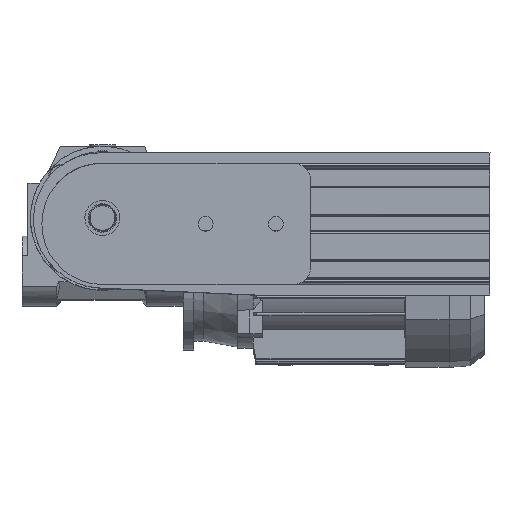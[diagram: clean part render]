
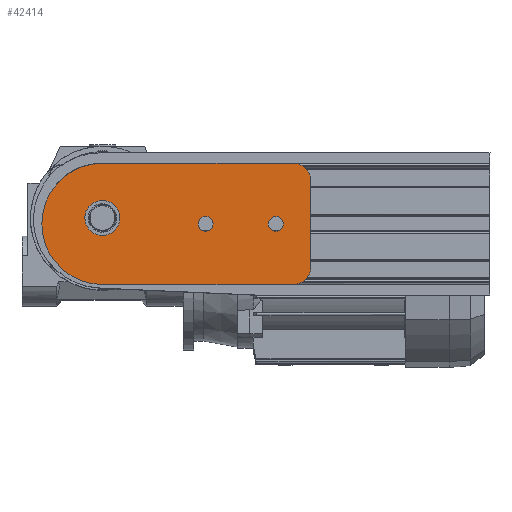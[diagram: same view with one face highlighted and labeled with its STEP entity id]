
A CAD part, top view. The second image highlights one B-rep face of the part: STEP entity #42414.
In plain terms, the highlighted planar face has unit normal (0, 0, 1).
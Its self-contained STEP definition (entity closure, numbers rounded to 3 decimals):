
#42213=CARTESIAN_POINT('',(156.889,-27.171,75.608));
#42214=VERTEX_POINT('',#42213);
#42215=CARTESIAN_POINT('',(156.889,-22.921,75.608));
#42216=DIRECTION('',(0.,0.,-1.0));
#42217=DIRECTION('',(0.,-1.0,0.));
#42218=AXIS2_PLACEMENT_3D('',#42215,#42216,#42217);
#42219=CIRCLE('',#42218,4.25);
#42220=EDGE_CURVE('',#42214,#42214,#42219,.T.);
#42262=CARTESIAN_POINT('',(196.889,-27.171,75.608));
#42263=VERTEX_POINT('',#42262);
#42264=CARTESIAN_POINT('',(196.889,-22.921,75.608));
#42265=DIRECTION('',(0.,0.,-1.0));
#42266=DIRECTION('',(0.,-1.0,0.));
#42267=AXIS2_PLACEMENT_3D('',#42264,#42265,#42266);
#42268=CIRCLE('',#42267,4.25);
#42269=EDGE_CURVE('',#42263,#42263,#42268,.T.);
#42279=CARTESIAN_POINT('',(216.889,-47.421,75.608));
#42280=VERTEX_POINT('',#42279);
#42281=CARTESIAN_POINT('',(206.889,-57.421,75.608));
#42282=VERTEX_POINT('',#42281);
#42283=CARTESIAN_POINT('',(206.889,-47.421,75.608));
#42284=DIRECTION('',(0.,0.,-1.));
#42285=DIRECTION('',(0.707,-0.707,0.));
#42286=AXIS2_PLACEMENT_3D('',#42283,#42284,#42285);
#42287=CIRCLE('',#42286,10.);
#42288=EDGE_CURVE('',#42280,#42282,#42287,.T.);
#42331=CARTESIAN_POINT('',(98.139,-57.421,75.608));
#42332=VERTEX_POINT('',#42331);
#42333=CARTESIAN_POINT('',(206.889,-57.421,75.608));
#42334=DIRECTION('',(-1.0,0.,0.));
#42335=VECTOR('',#42334,108.75);
#42336=LINE('',#42333,#42335);
#42337=EDGE_CURVE('',#42282,#42332,#42336,.T.);
#42356=CARTESIAN_POINT('',(146.704,-22.921,75.608));
#42357=DIRECTION('',(0.0,0.0,1.0));
#42358=DIRECTION('',(0.,-1.0,0.0));
#42359=AXIS2_PLACEMENT_3D('',#42356,#42357,#42358);
#42360=PLANE('',#42359);
#42361=ORIENTED_EDGE('',*,*,#42288,.F.);
#42362=CARTESIAN_POINT('',(216.889,1.579,75.608));
#42363=VERTEX_POINT('',#42362);
#42364=CARTESIAN_POINT('',(216.889,1.579,75.608));
#42365=DIRECTION('',(0.,-1.0,0.));
#42366=VECTOR('',#42365,49.0);
#42367=LINE('',#42364,#42366);
#42368=EDGE_CURVE('',#42363,#42280,#42367,.T.);
#42369=ORIENTED_EDGE('',*,*,#42368,.F.);
#42370=CARTESIAN_POINT('',(206.889,11.579,75.608));
#42371=VERTEX_POINT('',#42370);
#42372=CARTESIAN_POINT('',(206.889,1.579,75.608));
#42373=DIRECTION('',(0.,0.,-1.));
#42374=DIRECTION('',(0.707,0.707,0.));
#42375=AXIS2_PLACEMENT_3D('',#42372,#42373,#42374);
#42376=CIRCLE('',#42375,10.);
#42377=EDGE_CURVE('',#42371,#42363,#42376,.T.);
#42378=ORIENTED_EDGE('',*,*,#42377,.F.);
#42379=CARTESIAN_POINT('',(98.139,11.579,75.608));
#42380=VERTEX_POINT('',#42379);
#42381=CARTESIAN_POINT('',(98.139,11.579,75.608));
#42382=DIRECTION('',(1.0,0.,0.));
#42383=VECTOR('',#42382,108.75);
#42384=LINE('',#42381,#42383);
#42385=EDGE_CURVE('',#42380,#42371,#42384,.T.);
#42386=ORIENTED_EDGE('',*,*,#42385,.F.);
#42387=CARTESIAN_POINT('',(98.139,-22.921,75.608));
#42388=DIRECTION('',(0.,0.,-1.0));
#42389=DIRECTION('',(0.,1.0,0.));
#42390=AXIS2_PLACEMENT_3D('',#42387,#42388,#42389);
#42391=CIRCLE('',#42390,34.5);
#42392=EDGE_CURVE('',#42332,#42380,#42391,.T.);
#42393=ORIENTED_EDGE('',*,*,#42392,.F.);
#42394=ORIENTED_EDGE('',*,*,#42337,.F.);
#42395=EDGE_LOOP('',(#42361,#42369,#42378,#42386,#42393,#42394));
#42396=FACE_OUTER_BOUND('',#42395,.T.);
#42397=ORIENTED_EDGE('',*,*,#42220,.T.);
#42398=EDGE_LOOP('',(#42397));
#42399=FACE_BOUND('',#42398,.T.);
#42400=ORIENTED_EDGE('',*,*,#42269,.T.);
#42401=EDGE_LOOP('',(#42400));
#42402=FACE_BOUND('',#42401,.T.);
#42403=CARTESIAN_POINT('',(98.139,-29.501,75.608));
#42404=VERTEX_POINT('',#42403);
#42405=CARTESIAN_POINT('',(98.139,-19.501,75.608));
#42406=DIRECTION('',(0.,0.,-1.0));
#42407=DIRECTION('',(0.,-1.0,0.));
#42408=AXIS2_PLACEMENT_3D('',#42405,#42406,#42407);
#42409=CIRCLE('',#42408,10.0);
#42410=EDGE_CURVE('',#42404,#42404,#42409,.T.);
#42411=ORIENTED_EDGE('',*,*,#42410,.T.);
#42412=EDGE_LOOP('',(#42411));
#42413=FACE_BOUND('',#42412,.T.);
#42414=ADVANCED_FACE('',(#42396,#42399,#42402,#42413),#42360,.T.);
